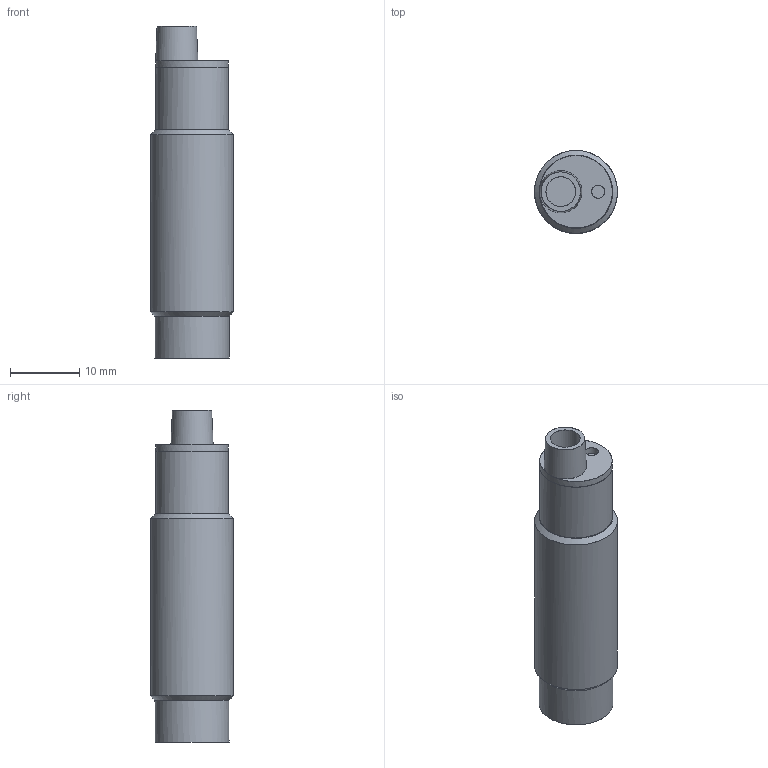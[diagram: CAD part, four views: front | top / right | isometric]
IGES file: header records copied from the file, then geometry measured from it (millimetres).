
Global section: file name: D:\CS\DSD-0276.igs; native system: NX V7.5; preprocessor: SIEMENS PLM Software NX 7.5; date: 20130509.110600; units: millimetre
Bounding box: 12 x 12 x 48 mm (x, y, z)
Surface area: 1926.4 mm2 (no closed solid volume)
Topology: 0 solids, 0 shells, 17 faces, 361 edges, 347 vertices
Faces by surface type: bspline 17
